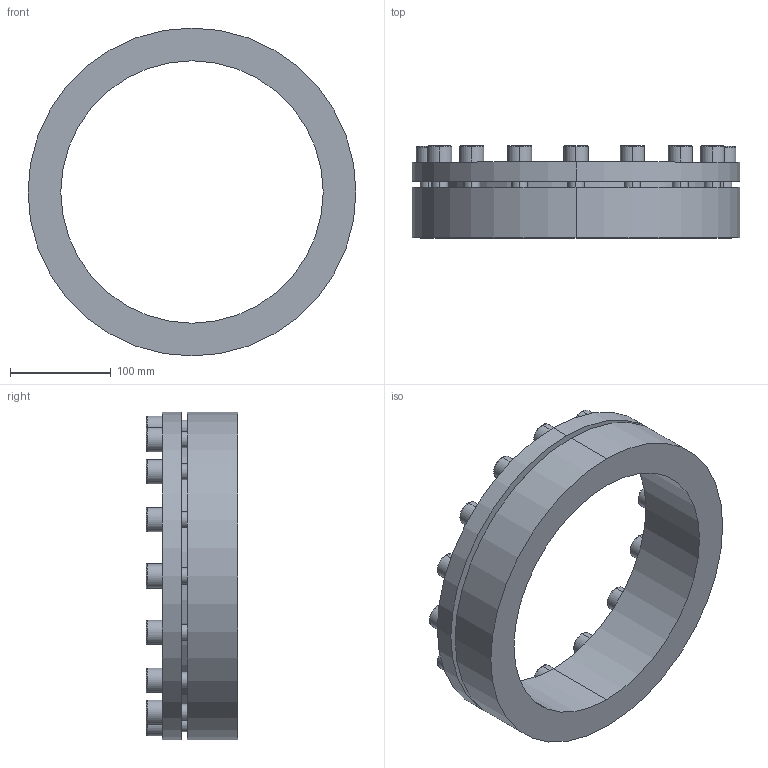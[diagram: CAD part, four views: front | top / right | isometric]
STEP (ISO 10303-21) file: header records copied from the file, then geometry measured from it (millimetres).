
FILE_DESCRIPTION (( 'STEP AP203' ), '1' );
FILE_NAME ('PL-H3 260-325.STEP', '2021-10-23T01:12:11', ( '' ), ( '' ), 'SwSTEP 2.0', 'SolidWorks 2018', '' );
FILE_SCHEMA (( 'CONFIG_CONTROL_DESIGN' ));
Length unit declared in the file: millimetre
Products named in the file (1): PL-H3 260-325
Bounding box: 325 x 91 x 325 mm (x, y, z)
Volume: 2206453.6 mm3; surface area: 268808.4 mm2
Topology: 1 solids, 1 shells, 236 faces, 568 edges, 368 vertices
Faces by surface type: plane 132, cylinder 72, torus 32
Entity records: 7029 total; most frequent: DIRECTION 1250, CARTESIAN_POINT 1173, ORIENTED_EDGE 1136, EDGE_CURVE 568, AXIS2_PLACEMENT_3D 445, VERTEX_POINT 368, LINE 360, VECTOR 360
